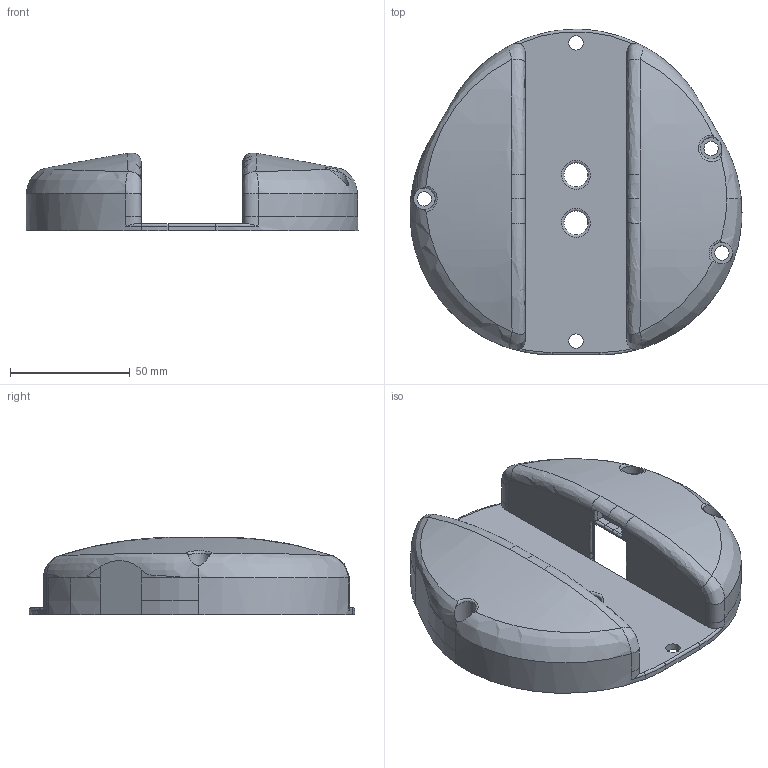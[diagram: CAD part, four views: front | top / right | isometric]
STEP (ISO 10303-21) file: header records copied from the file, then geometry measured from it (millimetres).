
FILE_DESCRIPTION(/* description */ ('STEP AP242','CAx-IF Rec.Pracs.---Representation and Presentation of Product Manufacturing Information (PMI)---4.0---2014-10-13','CAx-IF Rec.Pracs.---3D Tessellated Geometry---0.4---2014-09-14','2;1'),/* implementation_level */ '2;1');
FILE_NAME(/* name */ 'Arm Assembly - Part 1 (13)',/* time_stamp */ '2025-06-20T22:34:13Z',/* author */ (''),/* organization */ (''),/* preprocessor_version */ 'ST-DEVELOPER v20',/* originating_system */ 'ONSHAPE BY PTC INC, 1.199',/* authorisation */ ' ');
FILE_SCHEMA (('AP242_MANAGED_MODEL_BASED_3D_ENGINEERING_MIM_LF { 1 0 10303 442 1 1 4 }'));
Length unit declared in the file: metre
Products named in the file (1): Part 1
Bounding box: 138.44 x 135.77 x 32.52 mm (x, y, z)
Volume: 74717.6 mm3; surface area: 59334.7 mm2
Topology: 1 solids, 1 shells, 211 faces, 573 edges, 364 vertices
Faces by surface type: bspline 104, plane 54, cylinder 53
Full cylindrical faces by diameter (mm): 2.2 x2, 4.2 x1, 6 x5, 9 x3, 10 x2
Entity records: 38817 total; most frequent: CARTESIAN_POINT 34607, ORIENTED_EDGE 1102, EDGE_CURVE 551, DIRECTION 423, B_SPLINE_CURVE_WITH_KNOTS 381, VERTEX_POINT 360, EDGE_LOOP 251, FACE_BOUND 251
